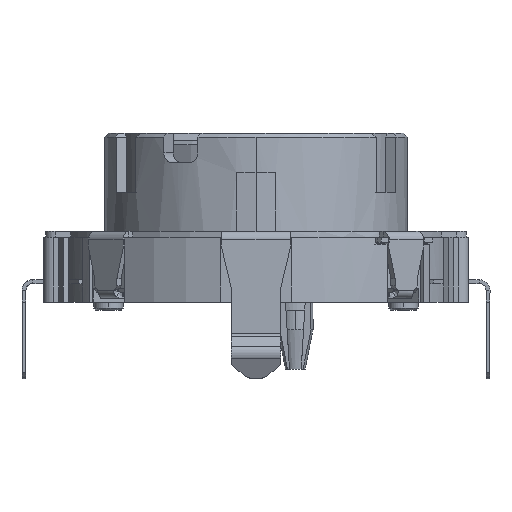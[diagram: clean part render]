
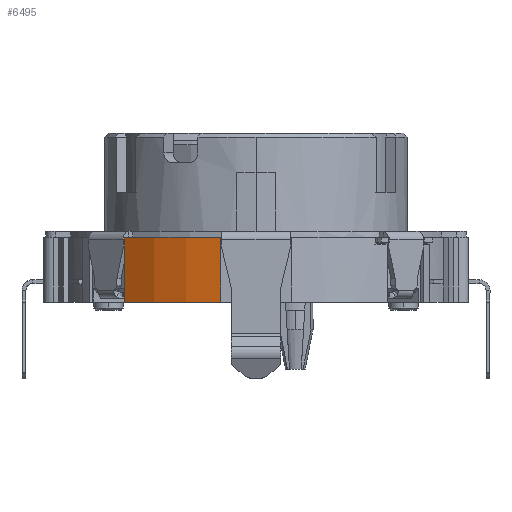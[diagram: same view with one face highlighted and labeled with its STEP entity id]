
A CAD part, left-side view. The second image highlights one B-rep face of the part: STEP entity #6495.
In plain terms, the highlighted cylindrical face has radius 10.8 mm (diameter 21.6 mm), a partial arc.
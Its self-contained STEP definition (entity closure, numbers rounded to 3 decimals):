
#355 = CARTESIAN_POINT ( 'NONE',  ( -8.469, 6.702, 0.4 ) ) ;
#501 = CARTESIAN_POINT ( 'NONE',  ( -8.469, 6.702, 0.4 ) ) ;
#1757 = CIRCLE ( 'NONE', #25431, 10.8 ) ;
#1848 = EDGE_CURVE ( 'NONE', #31235, #6832, #5749, .T. ) ;
#2522 = DIRECTION ( 'NONE',  ( 1., 0., 0. ) ) ;
#3727 = EDGE_CURVE ( 'NONE', #6832, #28775, #21136, .T. ) ;
#4443 = VECTOR ( 'NONE', #35683, 1000. ) ;
#5292 = CARTESIAN_POINT ( 'NONE',  ( -8.469, 6.702, 0.4 ) ) ;
#5384 = LINE ( 'NONE', #355, #5510 ) ;
#5510 = VECTOR ( 'NONE', #17219, 1000. ) ;
#5749 = LINE ( 'NONE', #31490, #31638 ) ;
#6495 = ADVANCED_FACE ( 'NONE', ( #31361 ), #17276, .T. ) ;
#6832 = VERTEX_POINT ( 'NONE', #501 ) ;
#8496 = EDGE_CURVE ( 'NONE', #16927, #15963, #1757, .T. ) ;
#9556 = ORIENTED_EDGE ( 'NONE', *, *, #8496, .F. ) ;
#10773 = LINE ( 'NONE', #21320, #19984 ) ;
#10793 = EDGE_LOOP ( 'NONE', ( #14176, #12667, #18847, #30645, #16864, #9556 ) ) ;
#12486 = CARTESIAN_POINT ( 'NONE',  ( 0., 0., 0.4 ) ) ;
#12667 = ORIENTED_EDGE ( 'NONE', *, *, #19699, .T. ) ;
#14176 = ORIENTED_EDGE ( 'NONE', *, *, #25306, .T. ) ;
#15963 = VERTEX_POINT ( 'NONE', #29701 ) ;
#16418 = LINE ( 'NONE', #5292, #4443 ) ;
#16507 = DIRECTION ( 'NONE',  ( 0., 0., -1. ) ) ;
#16864 = ORIENTED_EDGE ( 'NONE', *, *, #36225, .F. ) ;
#16927 = VERTEX_POINT ( 'NONE', #31107 ) ;
#17219 = DIRECTION ( 'NONE',  ( 0., 0., -1. ) ) ;
#17244 = DIRECTION ( 'NONE',  ( 1., 0., 0. ) ) ;
#17276 = CYLINDRICAL_SURFACE ( 'NONE', #24759, 10.8 ) ;
#17368 = VERTEX_POINT ( 'NONE', #18958 ) ;
#18847 = ORIENTED_EDGE ( 'NONE', *, *, #1848, .T. ) ;
#18958 = CARTESIAN_POINT ( 'NONE',  ( -8.469, 6.702, 3.6 ) ) ;
#19699 = EDGE_CURVE ( 'NONE', #17368, #31235, #5384, .T. ) ;
#19984 = VECTOR ( 'NONE', #16507, 1000. ) ;
#20976 = DIRECTION ( 'NONE',  ( -1., 0., 0. ) ) ;
#21136 = CIRCLE ( 'NONE', #30583, 10.8 ) ;
#21320 = CARTESIAN_POINT ( 'NONE',  ( -10.649, 1.8, 0.4 ) ) ;
#24759 = AXIS2_PLACEMENT_3D ( 'NONE', #12486, #29854, #20976 ) ;
#25306 = EDGE_CURVE ( 'NONE', #16927, #17368, #16418, .T. ) ;
#25431 = AXIS2_PLACEMENT_3D ( 'NONE', #25962, #28363, #17244 ) ;
#25962 = CARTESIAN_POINT ( 'NONE',  ( 0., 0., 3.7 ) ) ;
#26680 = DIRECTION ( 'NONE',  ( 0., 0., -1. ) ) ;
#27345 = CARTESIAN_POINT ( 'NONE',  ( -10.649, 1.8, 0.4 ) ) ;
#27747 = CARTESIAN_POINT ( 'NONE',  ( 0., 0., 0.4 ) ) ;
#27919 = DIRECTION ( 'NONE',  ( 0., 0., 1. ) ) ;
#28363 = DIRECTION ( 'NONE',  ( 0., 0., 1. ) ) ;
#28607 = CARTESIAN_POINT ( 'NONE',  ( -8.469, 6.702, 3.2 ) ) ;
#28775 = VERTEX_POINT ( 'NONE', #27345 ) ;
#29701 = CARTESIAN_POINT ( 'NONE',  ( -10.649, 1.8, 3.7 ) ) ;
#29854 = DIRECTION ( 'NONE',  ( 0., 0., -1. ) ) ;
#30583 = AXIS2_PLACEMENT_3D ( 'NONE', #27747, #27919, #2522 ) ;
#30645 = ORIENTED_EDGE ( 'NONE', *, *, #3727, .T. ) ;
#31107 = CARTESIAN_POINT ( 'NONE',  ( -8.469, 6.702, 3.7 ) ) ;
#31235 = VERTEX_POINT ( 'NONE', #28607 ) ;
#31361 = FACE_OUTER_BOUND ( 'NONE', #10793, .T. ) ;
#31490 = CARTESIAN_POINT ( 'NONE',  ( -8.469, 6.702, 0.4 ) ) ;
#31638 = VECTOR ( 'NONE', #26680, 1000. ) ;
#35683 = DIRECTION ( 'NONE',  ( 0., 0., -1. ) ) ;
#36225 = EDGE_CURVE ( 'NONE', #15963, #28775, #10773, .T. ) ;
